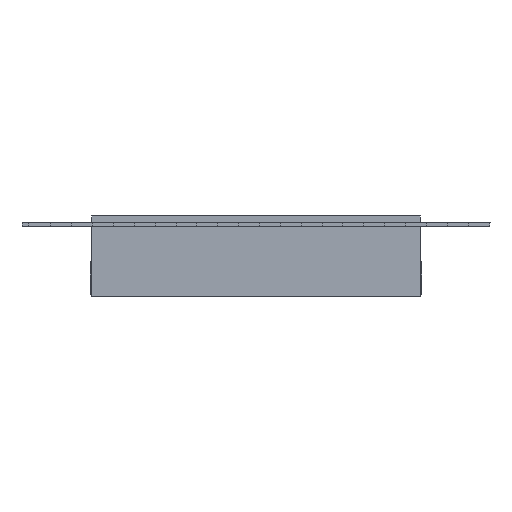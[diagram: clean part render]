
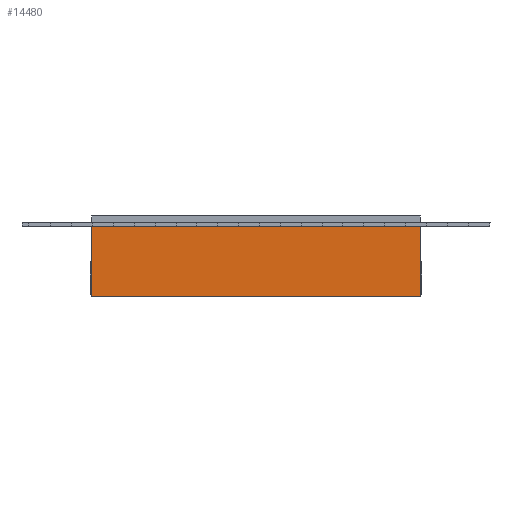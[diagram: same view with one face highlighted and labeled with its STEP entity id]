
A CAD part, left-side view. The second image highlights one B-rep face of the part: STEP entity #14480.
In plain terms, the highlighted planar face has unit normal (-1, 0, 0).
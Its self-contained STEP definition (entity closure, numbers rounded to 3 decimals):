
#3130=FACE_OUTER_BOUND('',#4421,.T.);
#4421=EDGE_LOOP('',(#13678,#13679,#13680,#13681));
#5214=LINE('',#25096,#6066);
#5223=LINE('',#25114,#6075);
#5270=LINE('',#25194,#6122);
#5275=LINE('',#25204,#6127);
#6066=VECTOR('',#20944,304.8);
#6075=VECTOR('',#20957,304.8);
#6122=VECTOR('',#21046,304.8);
#6127=VECTOR('',#21061,304.8);
#7484=VERTEX_POINT('',#25092);
#7486=VERTEX_POINT('',#25095);
#7491=VERTEX_POINT('',#25108);
#7493=VERTEX_POINT('',#25112);
#9506=EDGE_CURVE('',#7486,#7484,#5214,.T.);
#9515=EDGE_CURVE('',#7491,#7493,#5223,.T.);
#9562=EDGE_CURVE('',#7493,#7486,#5270,.T.);
#9567=EDGE_CURVE('',#7491,#7484,#5275,.T.);
#13678=ORIENTED_EDGE('',*,*,#9567,.F.);
#13679=ORIENTED_EDGE('',*,*,#9515,.T.);
#13680=ORIENTED_EDGE('',*,*,#9562,.T.);
#13681=ORIENTED_EDGE('',*,*,#9506,.T.);
#13784=PLANE('',#16393);
#14480=ADVANCED_FACE('',(#3130),#13784,.T.);
#16393=AXIS2_PLACEMENT_3D('',#25203,#21059,#21060);
#20944=DIRECTION('',(0.,0.,-1.));
#20957=DIRECTION('',(0.,0.,1.));
#21046=DIRECTION('',(0.,1.,0.));
#21059=DIRECTION('center_axis',(-1.,0.,0.));
#21060=DIRECTION('ref_axis',(0.,0.,-1.));
#21061=DIRECTION('',(0.,1.,0.));
#25092=CARTESIAN_POINT('',(-47.,47.,-23.313));
#25095=CARTESIAN_POINT('',(-47.,47.,-3.312));
#25096=CARTESIAN_POINT('',(-47.,47.,-3.312));
#25108=CARTESIAN_POINT('',(-47.,-47.,-23.313));
#25112=CARTESIAN_POINT('',(-47.,-47.,-3.312));
#25114=CARTESIAN_POINT('',(-47.,-47.,-23.313));
#25194=CARTESIAN_POINT('',(-47.,-47.,-3.312));
#25203=CARTESIAN_POINT('Origin',(-47.,47.,-0.313));
#25204=CARTESIAN_POINT('',(-47.,-47.,-23.313));
